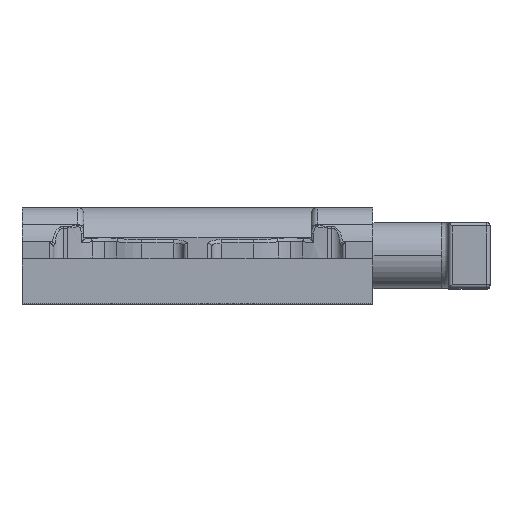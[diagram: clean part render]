
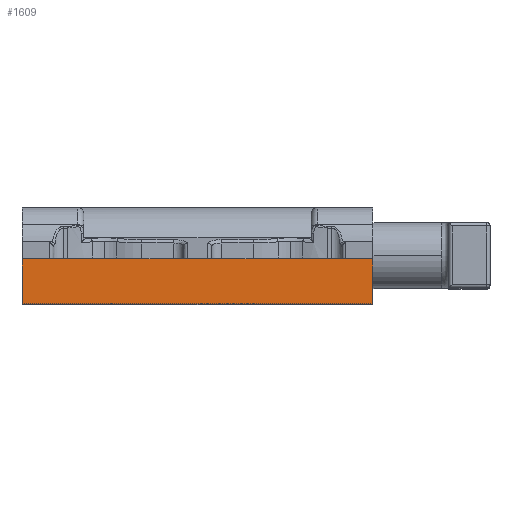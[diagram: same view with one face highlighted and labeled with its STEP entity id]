
A CAD part, top view. The second image highlights one B-rep face of the part: STEP entity #1609.
In plain terms, the highlighted planar face has unit normal (0, 0, 1).
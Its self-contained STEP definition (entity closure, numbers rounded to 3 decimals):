
#306 = CARTESIAN_POINT ( 'NONE',  ( 25.5, -7., 18. ) ) ;
#918 = DIRECTION ( 'NONE',  ( -1., 0., 0. ) ) ;
#973 = LINE ( 'NONE', #9782, #9718 ) ;
#1609 = ADVANCED_FACE ( 'NONE', ( #7787 ), #4986, .T. ) ;
#1793 = VERTEX_POINT ( 'NONE', #2588 ) ;
#1801 = DIRECTION ( 'NONE',  ( -1., 0., 0. ) ) ;
#1949 = VECTOR ( 'NONE', #1801, 1000. ) ;
#2477 = DIRECTION ( 'NONE',  ( 0., 0., 1. ) ) ;
#2557 = LINE ( 'NONE', #6102, #6785 ) ;
#2588 = CARTESIAN_POINT ( 'NONE',  ( -21.5, -0.5, 18. ) ) ;
#2663 = DIRECTION ( 'NONE',  ( -1., 0., 0. ) ) ;
#2980 = ORIENTED_EDGE ( 'NONE', *, *, #5256, .T. ) ;
#3050 = AXIS2_PLACEMENT_3D ( 'NONE', #3361, #2477, #4291 ) ;
#3204 = EDGE_CURVE ( 'NONE', #1793, #10756, #10630, .T. ) ;
#3346 = ORIENTED_EDGE ( 'NONE', *, *, #4684, .T. ) ;
#3361 = CARTESIAN_POINT ( 'NONE',  ( 25.5, -7., 18. ) ) ;
#3567 = LINE ( 'NONE', #7099, #1949 ) ;
#3676 = VERTEX_POINT ( 'NONE', #5355 ) ;
#3684 = EDGE_CURVE ( 'NONE', #3676, #1793, #973, .T. ) ;
#3998 = ORIENTED_EDGE ( 'NONE', *, *, #5972, .F. ) ;
#4058 = VERTEX_POINT ( 'NONE', #9932 ) ;
#4065 = CARTESIAN_POINT ( 'NONE',  ( 25.5, -0.5, 18. ) ) ;
#4124 = DIRECTION ( 'NONE',  ( -1., 0., 0. ) ) ;
#4162 = VERTEX_POINT ( 'NONE', #9233 ) ;
#4291 = DIRECTION ( 'NONE',  ( 1., 0., 0. ) ) ;
#4684 = EDGE_CURVE ( 'NONE', #5788, #4058, #10077, .T. ) ;
#4769 = VECTOR ( 'NONE', #4124, 1000. ) ;
#4806 = VECTOR ( 'NONE', #10014, 1000. ) ;
#4839 = CARTESIAN_POINT ( 'NONE',  ( 21.5, -0.5, 18. ) ) ;
#4891 = VERTEX_POINT ( 'NONE', #4839 ) ;
#4901 = DIRECTION ( 'NONE',  ( 0., 1., 0. ) ) ;
#4986 = PLANE ( 'NONE',  #3050 ) ;
#5138 = EDGE_CURVE ( 'NONE', #4162, #10756, #7578, .T. ) ;
#5256 = EDGE_CURVE ( 'NONE', #4058, #4891, #7735, .T. ) ;
#5353 = CARTESIAN_POINT ( 'NONE',  ( 1.5, -0.5, 18. ) ) ;
#5355 = CARTESIAN_POINT ( 'NONE',  ( -1.5, -0.5, 18. ) ) ;
#5480 = ORIENTED_EDGE ( 'NONE', *, *, #3204, .T. ) ;
#5788 = VERTEX_POINT ( 'NONE', #306 ) ;
#5972 = EDGE_CURVE ( 'NONE', #5788, #4162, #3567, .T. ) ;
#6102 = CARTESIAN_POINT ( 'NONE',  ( 25.5, -0.5, 18. ) ) ;
#6151 = EDGE_CURVE ( 'NONE', #9031, #3676, #2557, .T. ) ;
#6406 = ORIENTED_EDGE ( 'NONE', *, *, #6151, .T. ) ;
#6412 = CARTESIAN_POINT ( 'NONE',  ( 25.5, -7., 18. ) ) ;
#6785 = VECTOR ( 'NONE', #9653, 1000. ) ;
#6973 = VECTOR ( 'NONE', #4901, 1000. ) ;
#7087 = LINE ( 'NONE', #8787, #8910 ) ;
#7099 = CARTESIAN_POINT ( 'NONE',  ( 25.5, -7., 18. ) ) ;
#7578 = LINE ( 'NONE', #9370, #6973 ) ;
#7735 = LINE ( 'NONE', #4065, #4769 ) ;
#7787 = FACE_OUTER_BOUND ( 'NONE', #8253, .T. ) ;
#7849 = ORIENTED_EDGE ( 'NONE', *, *, #10224, .T. ) ;
#8253 = EDGE_LOOP ( 'NONE', ( #9975, #3998, #3346, #2980, #7849, #6406, #9381, #5480 ) ) ;
#8787 = CARTESIAN_POINT ( 'NONE',  ( 21., -0.5, 18. ) ) ;
#8895 = CARTESIAN_POINT ( 'NONE',  ( 25.5, -0.5, 18. ) ) ;
#8910 = VECTOR ( 'NONE', #11386, 1000. ) ;
#8947 = CARTESIAN_POINT ( 'NONE',  ( -25.5, -0.5, 18. ) ) ;
#9031 = VERTEX_POINT ( 'NONE', #5353 ) ;
#9233 = CARTESIAN_POINT ( 'NONE',  ( -25.5, -7., 18. ) ) ;
#9370 = CARTESIAN_POINT ( 'NONE',  ( -25.5, -7., 18. ) ) ;
#9381 = ORIENTED_EDGE ( 'NONE', *, *, #3684, .T. ) ;
#9653 = DIRECTION ( 'NONE',  ( -1., 0., 0. ) ) ;
#9718 = VECTOR ( 'NONE', #918, 1000. ) ;
#9782 = CARTESIAN_POINT ( 'NONE',  ( -21., -0.5, 18. ) ) ;
#9932 = CARTESIAN_POINT ( 'NONE',  ( 25.5, -0.5, 18. ) ) ;
#9975 = ORIENTED_EDGE ( 'NONE', *, *, #5138, .F. ) ;
#10014 = DIRECTION ( 'NONE',  ( 0., 1., 0. ) ) ;
#10077 = LINE ( 'NONE', #6412, #4806 ) ;
#10224 = EDGE_CURVE ( 'NONE', #4891, #9031, #7087, .T. ) ;
#10630 = LINE ( 'NONE', #8895, #11009 ) ;
#10756 = VERTEX_POINT ( 'NONE', #8947 ) ;
#11009 = VECTOR ( 'NONE', #2663, 1000. ) ;
#11386 = DIRECTION ( 'NONE',  ( -1., 0., 0. ) ) ;
